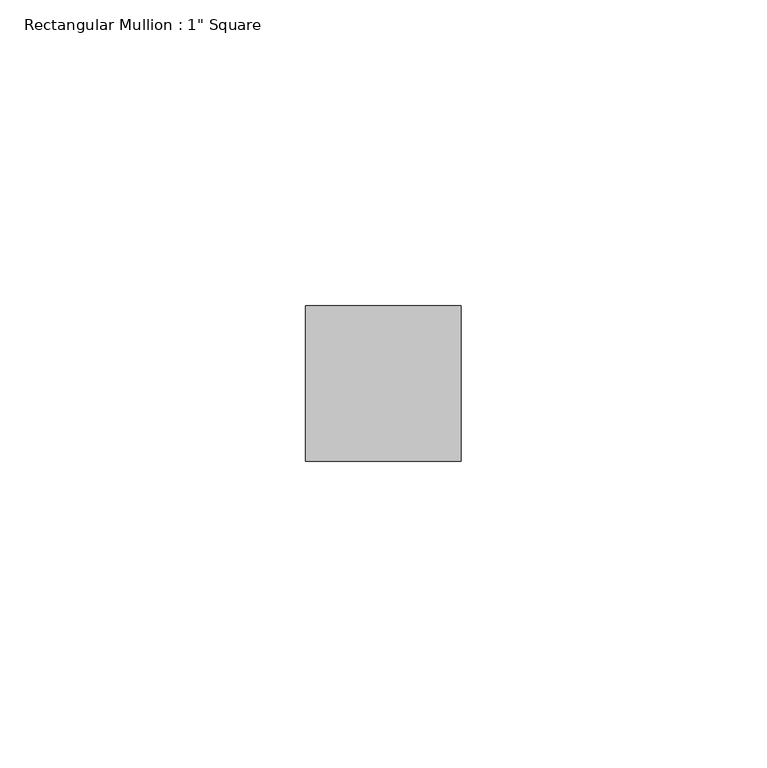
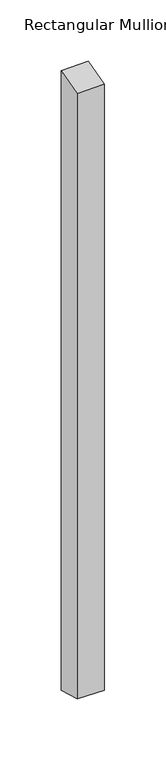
"""IFC4 building model written with IfcOpenShell, lengths in millimetres: member geometry."""

from ifc_helpers import new_model, si_unit, origin, place, context, project, spatial, faceted_brep, source, transform, mapped, element, save


def member_c358399a(model_context):
    return source(origin(), model_context, "Body", "Brep", [
        faceted_brep([(-25.4, 12.7, 3.1929902), (0.0, 12.7, 3.6997733), (0.0, 12.7, -612.9334793), (-25.4, 12.7, -612.47687), (-25.4, -12.7, -4.2065563), (-25.4, -12.7, -605.8099114), (0.0, -12.7, -3.6997733), (0.0, -12.7, -606.2665207)], [[[0, 1, 2, 3]], [[4, 0, 3, 5]], [[6, 4, 5, 7]], [[1, 6, 7, 2]], [[1, 0, 4, 6]], [[2, 7, 5, 3]]]),
    ])


if __name__ == "__main__":
    model = new_model("IFC4")
    model_context = context("Model", 3, world=origin())
    ifc_project = project(units=[si_unit("LENGTHUNIT", "METRE", prefix="MILLI")], contexts=[model_context])
    site = spatial("IfcSite", under=ifc_project)
    building = spatial("IfcBuilding", under=site)
    placement = place(None, origin())
    member_shape = member_c358399a(model_context)
    element("IfcMember", 1, ObjectType="Rectangular Mullion : 1\" Square", at=placement, inside=building, context=model_context, shape_type="MappedRepresentation", body=[
        mapped(member_shape, transform((0.0, 0.0, 0.0), x_axis=(1.0, 0.0, 0.0), y_axis=(0.0, 1.0, 0.0), z_axis=(0.0, 0.0, 1.0))),
    ])
    save(model, "model.ifc")
